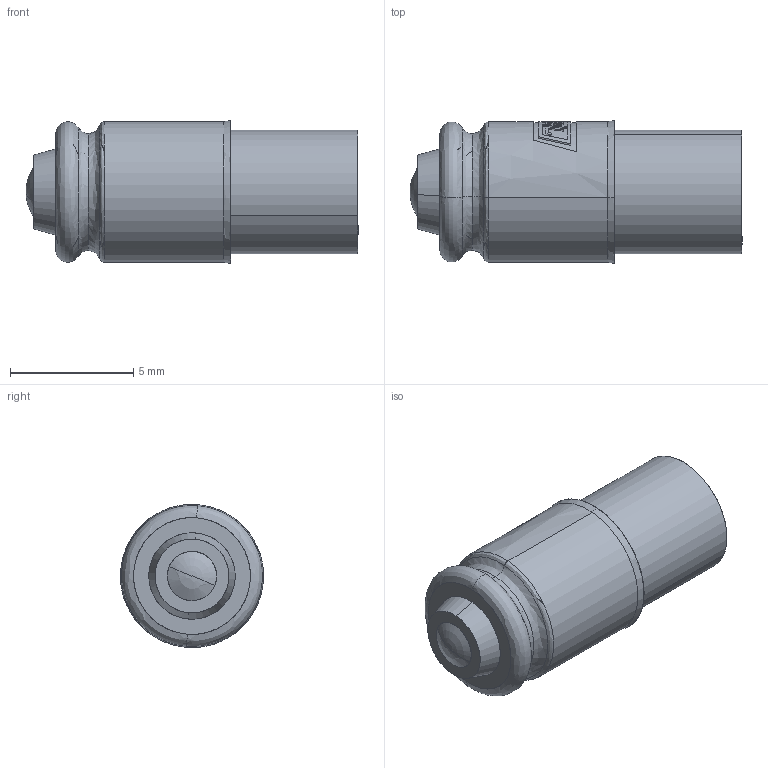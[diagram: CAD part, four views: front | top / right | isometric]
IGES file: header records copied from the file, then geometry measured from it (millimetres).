
Start section: SolidWorks IGES file using analytic representation for surfaces
Global section: file name: G:\Marl\DESIGN\Paul Robson\STEP-IGES FILES\205 Series\205 Series.IGS; native system: SolidWorks 2016; preprocessor: SolidWorks 2016; author: Paulr; date: 160803.103030; units: millimetre
Bounding box: 13.46 x 5.8 x 5.8 mm (x, y, z)
Surface area: 587.7 mm2 (no closed solid volume)
Topology: 0 solids, 0 shells, 170 faces, 1264 edges, 1262 vertices
Faces by surface type: bspline 138, revolution 32
